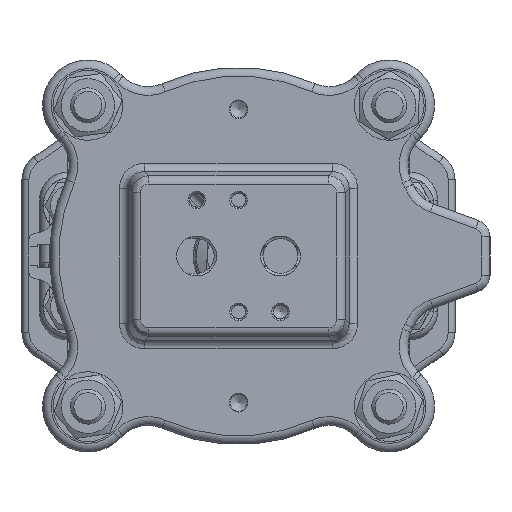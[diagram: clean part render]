
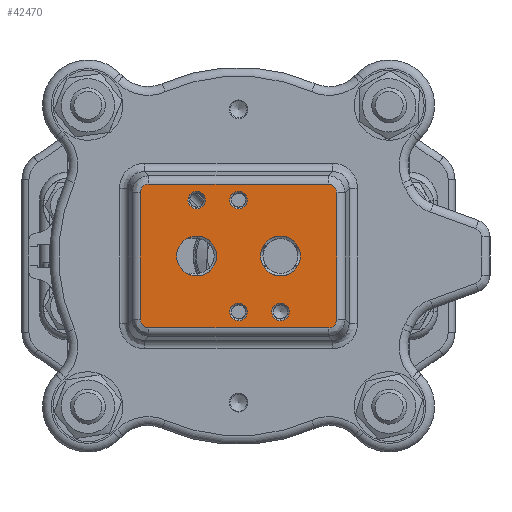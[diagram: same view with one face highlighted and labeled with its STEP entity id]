
A CAD part, front view. The second image highlights one B-rep face of the part: STEP entity #42470.
In plain terms, the highlighted planar face has unit normal (0, -1, 0).
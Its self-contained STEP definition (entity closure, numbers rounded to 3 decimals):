
#473=ELLIPSE('',#46257,2.673,2.5);
#474=ELLIPSE('',#46258,2.673,2.5);
#475=ELLIPSE('',#46259,2.673,2.5);
#476=ELLIPSE('',#46260,2.673,2.5);
#1458=FACE_BOUND('',#10902,.T.);
#1459=FACE_BOUND('',#10903,.T.);
#1460=FACE_BOUND('',#10904,.T.);
#1461=FACE_BOUND('',#10905,.T.);
#1462=FACE_BOUND('',#10906,.T.);
#1463=FACE_BOUND('',#10907,.T.);
#2012=PLANE('',#46256);
#3332=LINE('',#72689,#5530);
#3333=LINE('',#72693,#5531);
#3334=LINE('',#72697,#5532);
#3335=LINE('',#72700,#5533);
#5530=VECTOR('',#54673,10.);
#5531=VECTOR('',#54676,10.);
#5532=VECTOR('',#54679,10.);
#5533=VECTOR('',#54682,10.);
#8090=FACE_OUTER_BOUND('',#10901,.T.);
#10901=EDGE_LOOP('',(#31993,#31994,#31995,#31996,#31997,#31998,#31999,#32000));
#10902=EDGE_LOOP('',(#32001,#32002));
#10903=EDGE_LOOP('',(#32003,#32004));
#10904=EDGE_LOOP('',(#32005));
#10905=EDGE_LOOP('',(#32006));
#10906=EDGE_LOOP('',(#32007));
#10907=EDGE_LOOP('',(#32008));
#13825=CIRCLE('',#46126,5.723);
#13826=CIRCLE('',#46127,5.723);
#13828=CIRCLE('',#46130,5.723);
#13829=CIRCLE('',#46131,5.723);
#13920=CIRCLE('',#46255,2.5);
#13921=CIRCLE('',#46261,2.5);
#13922=CIRCLE('',#46262,2.5);
#13923=CIRCLE('',#46263,2.5);
#18302=VERTEX_POINT('',#71994);
#18303=VERTEX_POINT('',#71996);
#18304=VERTEX_POINT('',#72001);
#18305=VERTEX_POINT('',#72003);
#18406=VERTEX_POINT('',#72681);
#18407=VERTEX_POINT('',#72685);
#18408=VERTEX_POINT('',#72686);
#18409=VERTEX_POINT('',#72688);
#18410=VERTEX_POINT('',#72690);
#18411=VERTEX_POINT('',#72692);
#18412=VERTEX_POINT('',#72694);
#18413=VERTEX_POINT('',#72696);
#18414=VERTEX_POINT('',#72698);
#18415=VERTEX_POINT('',#72701);
#18416=VERTEX_POINT('',#72703);
#18417=VERTEX_POINT('',#72705);
#23172=EDGE_CURVE('',#18303,#18302,#13825,.T.);
#23173=EDGE_CURVE('',#18302,#18303,#13826,.T.);
#23176=EDGE_CURVE('',#18305,#18304,#13828,.T.);
#23177=EDGE_CURVE('',#18304,#18305,#13829,.T.);
#23313=EDGE_CURVE('',#18406,#18406,#13920,.T.);
#23314=EDGE_CURVE('',#18407,#18408,#473,.T.);
#23315=EDGE_CURVE('',#18409,#18407,#3332,.T.);
#23316=EDGE_CURVE('',#18410,#18409,#474,.T.);
#23317=EDGE_CURVE('',#18411,#18410,#3333,.T.);
#23318=EDGE_CURVE('',#18412,#18411,#475,.T.);
#23319=EDGE_CURVE('',#18413,#18412,#3334,.T.);
#23320=EDGE_CURVE('',#18414,#18413,#476,.T.);
#23321=EDGE_CURVE('',#18408,#18414,#3335,.T.);
#23322=EDGE_CURVE('',#18415,#18415,#13921,.T.);
#23323=EDGE_CURVE('',#18416,#18416,#13922,.T.);
#23324=EDGE_CURVE('',#18417,#18417,#13923,.T.);
#31993=ORIENTED_EDGE('',*,*,#23314,.F.);
#31994=ORIENTED_EDGE('',*,*,#23315,.F.);
#31995=ORIENTED_EDGE('',*,*,#23316,.F.);
#31996=ORIENTED_EDGE('',*,*,#23317,.F.);
#31997=ORIENTED_EDGE('',*,*,#23318,.F.);
#31998=ORIENTED_EDGE('',*,*,#23319,.F.);
#31999=ORIENTED_EDGE('',*,*,#23320,.F.);
#32000=ORIENTED_EDGE('',*,*,#23321,.F.);
#32001=ORIENTED_EDGE('',*,*,#23172,.T.);
#32002=ORIENTED_EDGE('',*,*,#23173,.T.);
#32003=ORIENTED_EDGE('',*,*,#23176,.T.);
#32004=ORIENTED_EDGE('',*,*,#23177,.T.);
#32005=ORIENTED_EDGE('',*,*,#23322,.F.);
#32006=ORIENTED_EDGE('',*,*,#23323,.F.);
#32007=ORIENTED_EDGE('',*,*,#23324,.F.);
#32008=ORIENTED_EDGE('',*,*,#23313,.F.);
#42470=ADVANCED_FACE('',(#8090,#1458,#1459,#1460,#1461,#1462,#1463),#2012,
 .F.);
#46126=AXIS2_PLACEMENT_3D('',#71997,#54381,#54382);
#46127=AXIS2_PLACEMENT_3D('',#71998,#54383,#54384);
#46130=AXIS2_PLACEMENT_3D('',#72004,#54390,#54391);
#46131=AXIS2_PLACEMENT_3D('',#72005,#54392,#54393);
#46255=AXIS2_PLACEMENT_3D('',#72683,#54667,#54668);
#46256=AXIS2_PLACEMENT_3D('',#72684,#54669,#54670);
#46257=AXIS2_PLACEMENT_3D('',#72687,#54671,#54672);
#46258=AXIS2_PLACEMENT_3D('',#72691,#54674,#54675);
#46259=AXIS2_PLACEMENT_3D('',#72695,#54677,#54678);
#46260=AXIS2_PLACEMENT_3D('',#72699,#54680,#54681);
#46261=AXIS2_PLACEMENT_3D('',#72702,#54683,#54684);
#46262=AXIS2_PLACEMENT_3D('',#72704,#54685,#54686);
#46263=AXIS2_PLACEMENT_3D('',#72706,#54687,#54688);
#54381=DIRECTION('center_axis',(0.,1.,0.));
#54382=DIRECTION('ref_axis',(1.,0.,0.));
#54383=DIRECTION('center_axis',(0.,1.,0.));
#54384=DIRECTION('ref_axis',(1.,0.,0.));
#54390=DIRECTION('center_axis',(0.,1.,0.));
#54391=DIRECTION('ref_axis',(1.,0.,0.));
#54392=DIRECTION('center_axis',(0.,1.,0.));
#54393=DIRECTION('ref_axis',(1.,0.,0.));
#54667=DIRECTION('center_axis',(0.,-1.,0.));
#54668=DIRECTION('ref_axis',(-1.,0.,0.));
#54669=DIRECTION('center_axis',(0.,1.,0.));
#54670=DIRECTION('ref_axis',(-1.,0.,0.));
#54671=DIRECTION('center_axis',(0.,1.,0.));
#54672=DIRECTION('ref_axis',(-0.707,0.,-0.707));
#54673=DIRECTION('',(-1.,0.,0.));
#54674=DIRECTION('center_axis',(0.,1.,0.));
#54675=DIRECTION('ref_axis',(0.707,0.,-0.707));
#54676=DIRECTION('',(0.,0.,-1.));
#54677=DIRECTION('center_axis',(0.,1.,0.));
#54678=DIRECTION('ref_axis',(0.707,0.,0.707));
#54679=DIRECTION('',(1.,0.,0.));
#54680=DIRECTION('center_axis',(0.,1.,0.));
#54681=DIRECTION('ref_axis',(-0.707,0.,0.707));
#54682=DIRECTION('',(0.,0.,1.));
#54683=DIRECTION('center_axis',(0.,-1.,0.));
#54684=DIRECTION('ref_axis',(-1.,0.,0.));
#54685=DIRECTION('center_axis',(0.,-1.,0.));
#54686=DIRECTION('ref_axis',(-1.,0.,0.));
#54687=DIRECTION('center_axis',(0.,-1.,0.));
#54688=DIRECTION('ref_axis',(-1.,0.,0.));
#71994=CARTESIAN_POINT('',(-17.723,-664.5,0.));
#71996=CARTESIAN_POINT('',(-6.278,-664.5,0.));
#71997=CARTESIAN_POINT('Origin',(-12.,-664.5,0.));
#71998=CARTESIAN_POINT('Origin',(-12.,-664.5,0.));
#72001=CARTESIAN_POINT('',(6.277,-664.5,0.));
#72003=CARTESIAN_POINT('',(17.722,-664.5,0.));
#72004=CARTESIAN_POINT('Origin',(12.,-664.5,0.));
#72005=CARTESIAN_POINT('Origin',(12.,-664.5,0.));
#72681=CARTESIAN_POINT('',(-9.5,-664.5,16.));
#72683=CARTESIAN_POINT('Origin',(-12.,-664.5,16.));
#72684=CARTESIAN_POINT('Origin',(0.,-664.5,
0.));
#72685=CARTESIAN_POINT('',(-25.667,-664.5,-20.582));
#72686=CARTESIAN_POINT('',(-28.082,-664.5,-18.167));
#72687=CARTESIAN_POINT('Origin',(-25.493,-664.5,-17.993));
#72688=CARTESIAN_POINT('',(25.667,-664.5,-20.582));
#72689=CARTESIAN_POINT('',(-15.,-664.5,-20.582));
#72690=CARTESIAN_POINT('',(28.082,-664.5,-18.167));
#72691=CARTESIAN_POINT('Origin',(25.493,-664.5,-17.993));
#72692=CARTESIAN_POINT('',(28.082,-664.5,18.167));
#72693=CARTESIAN_POINT('',(28.082,-664.5,-11.25));
#72694=CARTESIAN_POINT('',(25.667,-664.5,20.582));
#72695=CARTESIAN_POINT('Origin',(25.493,-664.5,17.993));
#72696=CARTESIAN_POINT('',(-25.667,-664.5,20.582));
#72697=CARTESIAN_POINT('',(15.,-664.5,20.582));
#72698=CARTESIAN_POINT('',(-28.082,-664.5,18.167));
#72699=CARTESIAN_POINT('Origin',(-25.493,-664.5,17.993));
#72700=CARTESIAN_POINT('',(-28.082,-664.5,11.25));
#72701=CARTESIAN_POINT('',(2.5,-664.5,16.));
#72702=CARTESIAN_POINT('Origin',(0.,-664.5,
16.));
#72703=CARTESIAN_POINT('',(14.5,-664.5,-16.));
#72704=CARTESIAN_POINT('Origin',(12.,-664.5,-16.));
#72705=CARTESIAN_POINT('',(2.5,-664.5,-16.));
#72706=CARTESIAN_POINT('Origin',(0.,-664.5,
-16.));
